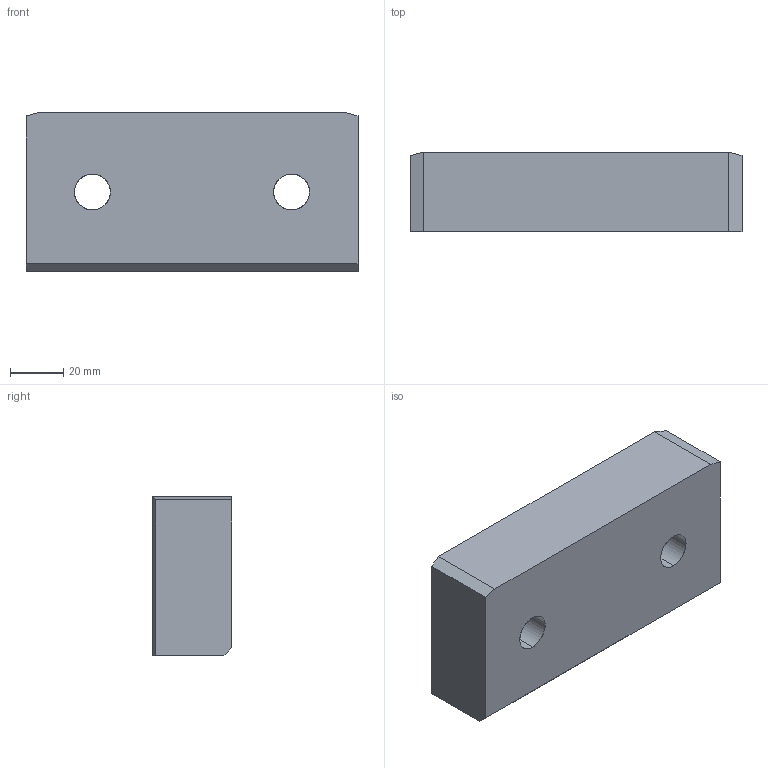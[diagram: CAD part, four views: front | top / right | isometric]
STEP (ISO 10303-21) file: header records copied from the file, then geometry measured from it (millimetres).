
FILE_DESCRIPTION(('CATIA V5 STEP Exchange'),'2;1');
FILE_NAME('C:\Users\Utente\Desktop\3D files A609\A609-030-125.stp','2020-04-13T19:47:42+00:00',('none'),('none'),'CATIA Version 5 Release 20 GA (IN-10)','CATIA V5 STEP AP203','none');
FILE_SCHEMA(('CONFIG_CONTROL_DESIGN'));
Length unit declared in the file: millimetre
Products named in the file (1): Noname
Bounding box: 125 x 30 x 60 mm (x, y, z)
Surface area: 28141.3 mm2 (no closed solid volume)
Topology: 0 solids, 17 shells, 21 faces, 90 edges, 82 vertices
Faces by surface type: extrusion 13, cylinder 8
Entity records: 1169 total; most frequent: CARTESIAN_POINT 441, ORIENTED_EDGE 98, DIRECTION 93, EDGE_CURVE 90, VERTEX_POINT 82, VECTOR 61, LINE 48, B_SPLINE_CURVE_WITH_KNOTS 39
